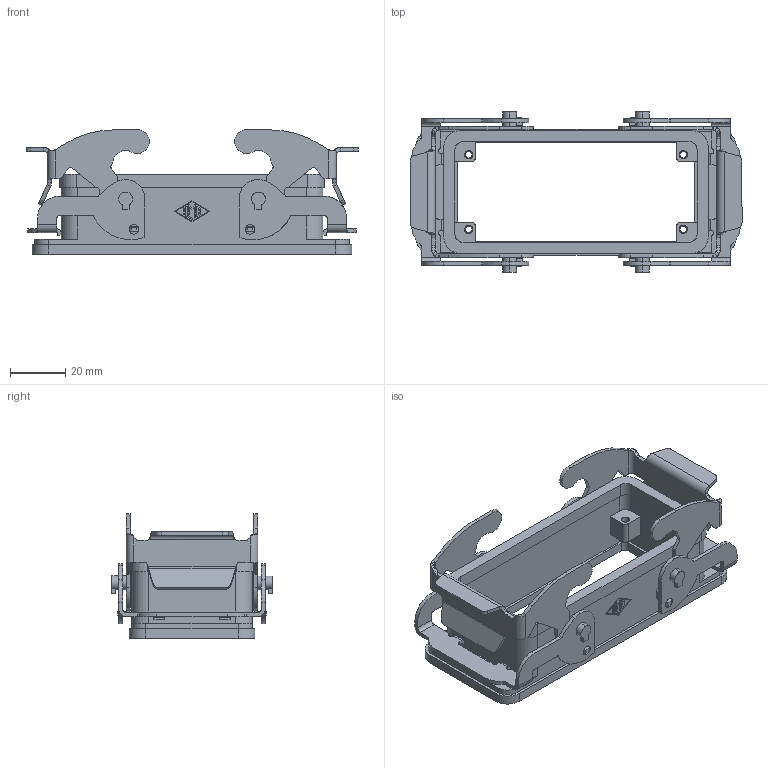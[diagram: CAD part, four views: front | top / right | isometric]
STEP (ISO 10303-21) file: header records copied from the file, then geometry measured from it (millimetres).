
FILE_DESCRIPTION (( 'STEP AP214' ), '1' );
FILE_NAME ('JCVI-16.STEP', '2013-12-19T15:17:58', ( 'Mencom User' ), ( 'Hewlett-Packard Company' ), 'SwSTEP 2.0', 'SolidWorks 2013', '' );
FILE_SCHEMA (( 'AUTOMOTIVE_DESIGN' ));
Length unit declared in the file: inch
Products named in the file (1): JCVI-16
Bounding box: 119.97 x 58 x 45 mm (x, y, z)
Volume: 42229.1 mm3; surface area: 37579.4 mm2
Topology: 3 solids, 3 shells, 610 faces, 1724 edges, 1142 vertices
Faces by surface type: cylinder 291, plane 291, bspline 28
Entity records: 34399 total; most frequent: CARTESIAN_POINT 10938, ORIENTED_EDGE 3448, DIRECTION 2894, EDGE_CURVE 1724, VERTEX_POINT 1142, LINE 1068, VECTOR 1068, AXIS2_PLACEMENT_3D 913
